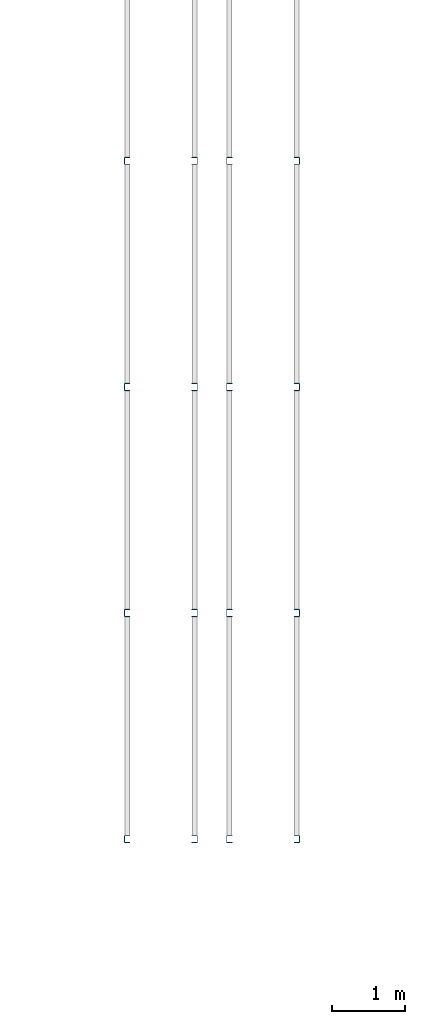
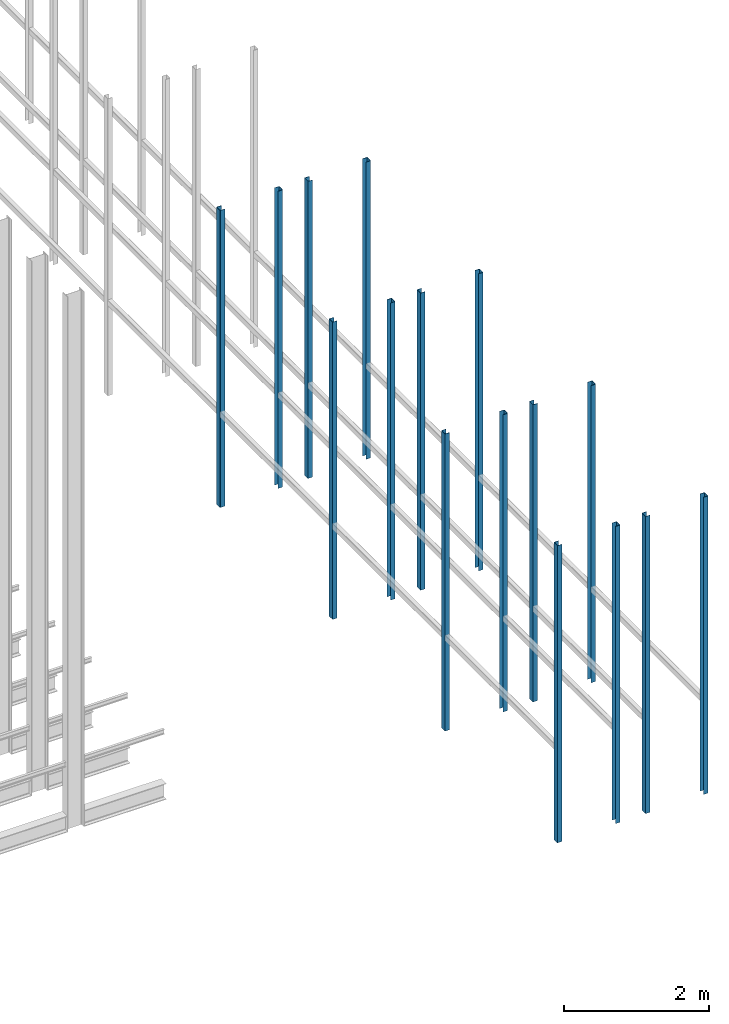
# One storey, part 48 of 302: 16 columns.
"""IFC2X3 building model written with IfcOpenShell, lengths in metres."""

import ifcopenshell
import ifcopenshell.guid

model = None  # the IFC model being written
_history = None  # IfcOwnerHistory: only IFC2X3 demands one
_inside = {}  # id of a spatial element -> (the spatial element, [elements in it])
_under = {}  # id of a project, library or spatial element -> (it, [spatial elements below it])
_declared = {}  # id of a project -> (the project, [libraries it declares])
_typed = {}  # id of a type object -> (the type object, [elements of that type])
_made_of = {}  # id of a material, layer set ... -> (it, [elements and type objects made of it])


def new_model(schema):
    """Start an empty IFC model of exactly this schema.

    Asked for "IFC4X3", IfcOpenShell would pick the latest addendum, in which some entities
    have other attributes; the version numbers below select the first issue.
    IFC2X3 requires an IfcOwnerHistory on every rooted entity: one is made here for all.
    """
    global model, _history
    if schema == "IFC4X3":
        model = ifcopenshell.file(schema_version=(4, 3, 0, 0))
    else:
        model = ifcopenshell.file(schema=schema)
    _inside.clear()
    _under.clear()
    _declared.clear()
    _typed.clear()
    _made_of.clear()
    _history = None
    if model.schema == "IFC2X3":
        org = make("IfcOrganization", Name="unknown")
        user = make(
            "IfcPersonAndOrganization",
            ThePerson=make("IfcPerson", FamilyName="unknown"),
            TheOrganization=org,
        )
        app = make(
            "IfcApplication",
            ApplicationDeveloper=org,
            Version="unknown",
            ApplicationFullName="unknown",
            ApplicationIdentifier="unknown",
        )
        _history = make(
            "IfcOwnerHistory",
            OwningUser=user,
            OwningApplication=app,
            ChangeAction="ADDED",
            CreationDate=0,
        )
    return model


def make(cls, **values):
    """One entity of the class cls with the attributes given. An attribute that is None is left unset."""
    return model.create_entity(
        cls, **{name: value for name, value in values.items() if value is not None}
    )


def entity(cls, *values):
    """Any entity or typed value of the class cls, its attributes in the order of the schema. None: left unset."""
    e = model.create_entity(cls)
    for i, value in enumerate(values):
        if value is not None:
            e[i] = value
    return e


def rooted(cls, **values):
    """An entity with a GlobalId (a new one), such as an element, a storey or a relation."""
    return make(cls, GlobalId=ifcopenshell.guid.new(), OwnerHistory=_history, **values)


def si_unit(unit_type, name, prefix=None):
    """IfcSIUnit, for example si_unit("LENGTHUNIT", "METRE", prefix="MILLI")."""
    return make("IfcSIUnit", UnitType=unit_type, Prefix=prefix, Name=name)


def converted_unit(unit_type, name, factor, base, dimensions=None, offset=None):
    """IfcConversionBasedUnit, such as the inch: factor (a typed value) times the base unit."""
    return make(
        "IfcConversionBasedUnit"
        if offset is None
        else "IfcConversionBasedUnitWithOffset",
        ConversionOffset=offset,
        Dimensions=None
        if dimensions is None
        else entity("IfcDimensionalExponents", *dimensions),
        UnitType=unit_type,
        Name=name,
        ConversionFactor=make(
            "IfcMeasureWithUnit", ValueComponent=factor, UnitComponent=base
        ),
    )


def derived_unit(unit_type, elements):
    """IfcDerivedUnit: a product of units, each with its exponent."""
    return make(
        "IfcDerivedUnit",
        Elements=[
            make("IfcDerivedUnitElement", Unit=unit, Exponent=power)
            for unit, power in elements
        ],
        UnitType=unit_type,
    )


def assignment(units):
    """IfcUnitAssignment: the units of a project."""
    return None if units is None else make("IfcUnitAssignment", Units=units)


def point(xyz):
    """IfcCartesianPoint."""
    return None if xyz is None else make("IfcCartesianPoint", Coordinates=xyz)


def direction(xyz):
    """IfcDirection."""
    return None if xyz is None else make("IfcDirection", DirectionRatios=xyz)


def frame(location, z_axis=None, x_axis=None):
    """IfcAxis2Placement3D, a coordinate frame: its origin and axes. An axis left out is left unset."""
    return make(
        "IfcAxis2Placement3D",
        Location=point(location),
        Axis=direction(z_axis),
        RefDirection=direction(x_axis),
    )


def frame_2d(location, x_axis=None):
    """IfcAxis2Placement2D, a coordinate frame in the plane: its origin and x axis."""
    return make(
        "IfcAxis2Placement2D", Location=point(location), RefDirection=direction(x_axis)
    )


def origin():
    """The frame at (0, 0, 0) with its axes left unset."""
    return frame((0.0, 0.0, 0.0))


def place(relative_to, where):
    """IfcLocalPlacement: puts the frame where relative to a parent placement (None: the world)."""
    return make(
        "IfcLocalPlacement", PlacementRelTo=relative_to, RelativePlacement=where
    )


def context(
    kind, dimensions, precision=None, world=None, true_north=None, identifier=None
):
    """IfcGeometricRepresentationContext, for example the 3D "Model" context."""
    return make(
        "IfcGeometricRepresentationContext",
        ContextIdentifier=identifier,
        ContextType=kind,
        CoordinateSpaceDimension=dimensions,
        Precision=precision,
        WorldCoordinateSystem=world,
        TrueNorth=true_north,
    )


def subcontext(parent, identifier, kind, view, scale=None):
    """IfcGeometricRepresentationSubContext, for example "Body" below "Model"."""
    return make(
        "IfcGeometricRepresentationSubContext",
        ContextIdentifier=identifier,
        ContextType=kind,
        ParentContext=parent,
        TargetScale=scale,
        TargetView=view,
    )


def project(units=None, contexts=None):
    """IfcProject with its units and contexts."""
    return rooted(
        "IfcProject",
        Name="project",
        RepresentationContexts=contexts,
        UnitsInContext=assignment(units),
    )


def spatial(cls, under=None, at=None, **own):
    """A site, building, storey or space (cls), placed at a placement, below another one or the project."""
    s = rooted(cls, ObjectPlacement=at, **own)
    if under is not None:
        _under.setdefault(under.id(), (under, []))[1].append(s)
    return s


def polyline(points):
    """IfcPolyline through the points."""
    return make("IfcPolyline", Points=[point(p) for p in points])


def circle_curve(where, radius):
    """IfcCircle in the frame where."""
    return make("IfcCircle", Position=where, Radius=radius)


def parameter(value):
    """IfcParameterValue: where a trimmed curve begins or ends, as a parameter of its basis curve."""
    return model.create_entity("IfcParameterValue", value)


def trimmed(basis, trim1, trim2, sense, master):
    """IfcTrimmedCurve: the piece of a basis curve between two trims."""
    return make(
        "IfcTrimmedCurve",
        BasisCurve=basis,
        Trim1=trim1,
        Trim2=trim2,
        SenseAgreement=sense,
        MasterRepresentation=master,
    )


def segment(curve, same_sense, transition):
    """IfcCompositeCurveSegment."""
    return make(
        "IfcCompositeCurveSegment",
        Transition=transition,
        SameSense=same_sense,
        ParentCurve=curve,
    )


def composite_curve(segments, self_intersect=None):
    """IfcCompositeCurve: segments joined end to end."""
    return make("IfcCompositeCurve", Segments=segments, SelfIntersect=self_intersect)


def outline(outer, holes=None, kind="AREA"):
    """IfcArbitraryClosedProfileDef: a profile drawn as a closed curve; with holes, ...WithVoids."""
    if holes is None:
        return make("IfcArbitraryClosedProfileDef", ProfileType=kind, OuterCurve=outer)
    return make(
        "IfcArbitraryProfileDefWithVoids",
        ProfileType=kind,
        OuterCurve=outer,
        InnerCurves=holes,
    )


def extrude(swept, where, along, depth):
    """IfcExtrudedAreaSolid: the profile swept, set in the frame where, extruded along a direction by depth."""
    return make(
        "IfcExtrudedAreaSolid",
        SweptArea=swept,
        Position=where,
        ExtrudedDirection=direction(along),
        Depth=depth,
    )


def shape(context_of_items, identifier, shape_type, items):
    """IfcShapeRepresentation: the items that make up one representation, for example the "Body"."""
    return make(
        "IfcShapeRepresentation",
        ContextOfItems=context_of_items,
        RepresentationIdentifier=identifier,
        RepresentationType=shape_type,
        Items=items,
    )


def source(mapping_origin, context_of_items, identifier, shape_type, items):
    """IfcRepresentationMap: a shape defined once, which mapped items show again and again."""
    return make(
        "IfcRepresentationMap",
        MappingOrigin=mapping_origin,
        MappedRepresentation=shape(context_of_items, identifier, shape_type, items),
    )


def transform(
    local_origin,
    x_axis=None,
    y_axis=None,
    z_axis=None,
    scale=None,
    scale2=None,
    scale3=None,
    uniform=True,
):
    """IfcCartesianTransformationOperator3D, or its non-uniform kind. x_axis, y_axis, z_axis: its Axis1, 2, 3."""
    if uniform:
        return make(
            "IfcCartesianTransformationOperator3D",
            Axis1=direction(x_axis),
            Axis2=direction(y_axis),
            LocalOrigin=point(local_origin),
            Scale=scale,
            Axis3=direction(z_axis),
        )
    return make(
        "IfcCartesianTransformationOperator3DnonUniform",
        Axis1=direction(x_axis),
        Axis2=direction(y_axis),
        LocalOrigin=point(local_origin),
        Scale=scale,
        Axis3=direction(z_axis),
        Scale2=scale2,
        Scale3=scale3,
    )


def mapped(mapping_source, mapping_target):
    """IfcMappedItem: shows the shape of a source again, moved by a transform."""
    return make(
        "IfcMappedItem", MappingSource=mapping_source, MappingTarget=mapping_target
    )


def material(Name=None, Category=None):
    """IfcMaterial."""
    return make("IfcMaterial", Name=Name, Category=Category)


def made_of(thing, what):
    """Note that an element or type object is made of a material, layer set ...; save() writes the relation."""
    if what is not None:
        _made_of.setdefault(what.id(), (what, []))[1].append(thing)
    return thing


def type_object(cls, material=None, **own):
    """A type object (cls), such as IfcWallType, which elements share."""
    return made_of(rooted(cls, **own), material)


def type_shapes(of_type, sources):
    """Give a type object the sources (RepresentationMaps) that its elements show as mapped items."""
    of_type.RepresentationMaps = sources


def element(
    cls,
    number,
    at=None,
    inside=None,
    cuts=None,
    type_object=None,
    material=None,
    context=None,
    identifier="Body",
    shape_type=None,
    held_by="IfcProductDefinitionShape",
    body=None,
    shapes=None,
    **own,
):
    """One element of the class cls, such as IfcWall. Its Tag is "e" and its number.

    at: its placement. inside: the storey or other place that contains it. cuts: it is an
    opening in that element (IfcRelVoidsElement). A single representation is given by context,
    identifier, shape_type and body (its items); several are given by shapes. held_by: the class
    of the entity that holds the representations. save() writes the other relations.
    """
    e = rooted(cls, Tag="e%d" % number, ObjectPlacement=at, **own)
    if body is not None:
        shapes = [shape(context, identifier, shape_type, body)]
    if shapes is not None:
        e.Representation = make(held_by, Representations=shapes)
    if inside is not None:
        _inside.setdefault(inside.id(), (inside, []))[1].append(e)
    if cuts is not None:
        rooted(
            "IfcRelVoidsElement", RelatingBuildingElement=cuts, RelatedOpeningElement=e
        )
    if type_object is not None:
        _typed.setdefault(type_object.id(), (type_object, []))[1].append(e)
    return made_of(e, material)


def aggregate(whole, parts):
    """IfcRelAggregates: a whole, such as a stair, and the parts it consists of."""
    return rooted("IfcRelAggregates", RelatingObject=whole, RelatedObjects=parts)


def save(model, path):
    """Write the relations noted so far, then the file.

    IfcRelAggregates (storeys below a building ...), IfcRelContainedInSpatialStructure (elements
    in a storey), IfcRelDefinesByType, IfcRelAssociatesMaterial and IfcRelDeclares: one each for
    every whole, place, type object, material and project.
    """
    for whole, parts in _under.values():
        aggregate(whole, parts)
    for where, things in _inside.values():
        rooted(
            "IfcRelContainedInSpatialStructure",
            RelatedElements=things,
            RelatingStructure=where,
        )
    for kind, things in _typed.values():
        rooted("IfcRelDefinesByType", RelatedObjects=things, RelatingType=kind)
    for what, things in _made_of.values():
        rooted("IfcRelAssociatesMaterial", RelatedObjects=things, RelatingMaterial=what)
    for by, libraries in _declared.values():
        rooted("IfcRelDeclares", RelatingContext=by, RelatedDefinitions=libraries)
    model.write(path)


model = new_model("IFC2X3")

# Units and contexts
model_context = context("Model", 3, precision=1e-05, world=origin(), true_north=direction((6.12303176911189e-17, 1.0)))
body_context = subcontext(model_context, "Body", "Model", "MODEL_VIEW")
ifc_project = project(units=[si_unit("LENGTHUNIT", "METRE"), si_unit("AREAUNIT", "SQUARE_METRE"), si_unit("VOLUMEUNIT", "CUBIC_METRE"), converted_unit("PLANEANGLEUNIT", "DEGREE", entity("IfcRatioMeasure", 0.0174532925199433), si_unit("PLANEANGLEUNIT", "RADIAN"), dimensions=[0, 0, 0, 0, 0, 0, 0]), si_unit("MASSUNIT", "GRAM", prefix="KILO"), derived_unit("MASSDENSITYUNIT", [(si_unit("MASSUNIT", "GRAM", prefix="KILO"), 1), (si_unit("LENGTHUNIT", "METRE"), -3)]), derived_unit("MOMENTOFINERTIAUNIT", [(si_unit("LENGTHUNIT", "METRE"), 4)]), si_unit("TIMEUNIT", "SECOND"), si_unit("FREQUENCYUNIT", "HERTZ"), si_unit("THERMODYNAMICTEMPERATUREUNIT", "DEGREE_CELSIUS"), derived_unit("THERMALTRANSMITTANCEUNIT", [(si_unit("MASSUNIT", "GRAM", prefix="KILO"), 1), (si_unit("THERMODYNAMICTEMPERATUREUNIT", "KELVIN"), -1), (si_unit("TIMEUNIT", "SECOND"), -3)]), derived_unit("VOLUMETRICFLOWRATEUNIT", [(si_unit("LENGTHUNIT", "METRE"), 3), (si_unit("TIMEUNIT", "SECOND"), -1)]), si_unit("ELECTRICCURRENTUNIT", "AMPERE"), si_unit("ELECTRICVOLTAGEUNIT", "VOLT"), si_unit("POWERUNIT", "WATT"), si_unit("FORCEUNIT", "NEWTON", prefix="KILO"), si_unit("ILLUMINANCEUNIT", "LUX"), si_unit("LUMINOUSFLUXUNIT", "LUMEN"), si_unit("LUMINOUSINTENSITYUNIT", "CANDELA"), derived_unit("USERDEFINED", [(si_unit("MASSUNIT", "GRAM", prefix="KILO"), -1), (si_unit("LENGTHUNIT", "METRE"), -2), (si_unit("TIMEUNIT", "SECOND"), 3), (si_unit("LUMINOUSFLUXUNIT", "LUMEN"), 1)]), derived_unit("LINEARVELOCITYUNIT", [(si_unit("LENGTHUNIT", "METRE"), 1), (si_unit("TIMEUNIT", "SECOND"), -1)]), si_unit("PRESSUREUNIT", "PASCAL"), derived_unit("USERDEFINED", [(si_unit("LENGTHUNIT", "METRE"), -2), (si_unit("MASSUNIT", "GRAM", prefix="KILO"), 1), (si_unit("TIMEUNIT", "SECOND"), -2)]), derived_unit("LINEARFORCEUNIT", [(si_unit("MASSUNIT", "GRAM", prefix="KILO"), 1), (si_unit("LENGTHUNIT", "METRE"), 1), (si_unit("TIMEUNIT", "SECOND"), -2), (si_unit("LENGTHUNIT", "METRE"), -1)]), derived_unit("PLANARFORCEUNIT", [(si_unit("MASSUNIT", "GRAM", prefix="KILO"), 1), (si_unit("LENGTHUNIT", "METRE"), 1), (si_unit("TIMEUNIT", "SECOND"), -2), (si_unit("LENGTHUNIT", "METRE"), -2)])], contexts=[model_context])

# Site, building, storey
site_placement = place(None, origin())
site = spatial("IfcSite", under=ifc_project, at=site_placement, Name="Default", CompositionType="ELEMENT")
building_placement = place(site_placement, origin())
building = spatial("IfcBuilding", under=site, at=building_placement, CompositionType="ELEMENT")
storey_placement = place(building_placement, frame((0.0, 0.0, -1.3)))
storey = spatial("IfcBuildingStorey", under=building, at=storey_placement, Name="00_EG", CompositionType="ELEMENT", Elevation=-1.3)

# Columns
ifc_material = material(Name="Metall - Baustahl S235")
column_type_1 = type_object("IfcColumnType", Name="Leichter Stahl Schlossschrauben Stütze:C 100", PredefinedType="COLUMN", material=ifc_material)
shared_shape_1 = source(origin(), body_context, "Body", "SweptSolid", [
    extrude(outline(composite_curve([segment(polyline([(-0.0469749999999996, -0.0499999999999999), (0.0214500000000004, -0.0499999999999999)]), True, "CONTINUOUS"), segment(trimmed(circle_curve(frame_2d((0.0214500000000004, -0.0434249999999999), x_axis=(0.0, -1.0)), 0.00657500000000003), [parameter(0.0)], [parameter(89.9999999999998)], True, "PARAMETER"), True, "CONTINUOUS"), segment(polyline([(0.0280250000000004, -0.0434249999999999), (0.0280250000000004, 0.0434250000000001)]), True, "CONTINUOUS"), segment(trimmed(circle_curve(frame_2d((0.0214500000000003, 0.0434250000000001), x_axis=(1.0, 0.0)), 0.0065750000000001), [parameter(0.0)], [parameter(89.9999999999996)], True, "PARAMETER"), True, "CONTINUOUS"), segment(polyline([(0.0214500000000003, 0.0500000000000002), (-0.0469750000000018, 0.0500000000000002)]), True, "CONTINUOUS"), segment(polyline([(-0.0469750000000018, 0.0500000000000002), (-0.0469750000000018, 0.0450000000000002)]), True, "CONTINUOUS"), segment(polyline([(-0.0469750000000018, 0.0450000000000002), (0.0214500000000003, 0.0450000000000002)]), True, "CONTINUOUS"), segment(trimmed(circle_curve(frame_2d((0.0214500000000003, 0.0434249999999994), x_axis=(0.0, 1.0)), 0.00157500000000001), [parameter(269.999999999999)], [parameter(0.0)], True, "PARAMETER"), False, "CONTINUOUS"), segment(polyline([(0.0230250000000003, 0.0434249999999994), (0.0230250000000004, -0.0434249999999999)]), True, "CONTINUOUS"), segment(trimmed(circle_curve(frame_2d((0.0214500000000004, -0.0434249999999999), x_axis=(1.0, 0.0)), 0.00157500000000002), [parameter(270.0)], [parameter(0.0)], True, "PARAMETER"), False, "CONTINUOUS"), segment(polyline([(0.0214500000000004, -0.0449999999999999), (-0.0469749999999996, -0.0449999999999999)]), True, "CONTINUOUS"), segment(polyline([(-0.0469749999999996, -0.0449999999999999), (-0.0469749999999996, -0.0499999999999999)]), True, "CONTINUOUS")], self_intersect=False)), frame((0.0499999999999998, 0.0280250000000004, -0.0300000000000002), z_axis=(0.0, 0.0, 1.0), x_axis=(0.0, -1.0, 0.0)), (0.0, 0.0, 1.0), 5.0),
])
type_shapes(column_type_1, [shared_shape_1])
for number, where, z_axis, x_axis in (
    (1, (-159.193311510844, 26.6480889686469, 1.3), (0.0, 0.0, 1.0), (0.0, -1.0, 0.0)),
    (2, (-159.193311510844, 23.5480889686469, 1.3), (0.0, 0.0, 1.0), (0.0, -1.0, 0.0)),
    (3, (-159.193311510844, 20.4480889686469, 1.3), (0.0, 0.0, 1.0), (0.0, -1.0, 0.0)),
    (4, (-159.193311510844, 29.7480889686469, 1.3), (0.0, 0.0, 1.0), (0.0, -1.0, 0.0)),
    (5, (-157.793311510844, 26.6480889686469, 1.3), (0.0, 0.0, 1.0), (0.0, -1.0, 0.0)),
    (6, (-157.793311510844, 23.5480889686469, 1.3), (0.0, 0.0, 1.0), (0.0, -1.0, 0.0)),
    (7, (-157.793311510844, 20.4480889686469, 1.3), (0.0, 0.0, 1.0), (0.0, -1.0, 0.0)),
    (8, (-157.793311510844, 29.7480889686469, 1.3), (0.0, 0.0, 1.0), (0.0, -1.0, 0.0)),
):
    element("IfcColumn", number, at=place(storey_placement, frame(where, z_axis=z_axis, x_axis=x_axis)), inside=storey, type_object=column_type_1, material=ifc_material, Name="Leichter Stahl Schlossschrauben Stütze:C 100", ObjectType="Leichter Stahl Schlossschrauben Stütze:C 100", context=body_context, shape_type="MappedRepresentation", body=[
        mapped(shared_shape_1, transform((0.0, 0.0, 0.0), scale=1.0)),
    ])
column_type_2 = type_object("IfcColumnType", Name="Leichter Stahl Schlossschrauben Stütze:C 100", PredefinedType="COLUMN", material=ifc_material)
shared_shape_2 = source(origin(), body_context, "Body", "SweptSolid", [
    extrude(outline(composite_curve([segment(polyline([(-0.0214500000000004, -0.0499999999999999), (0.0469749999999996, -0.0499999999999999)]), True, "CONTINUOUS"), segment(polyline([(0.0469749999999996, -0.0499999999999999), (0.0469749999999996, -0.0449999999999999)]), True, "CONTINUOUS"), segment(polyline([(0.0469749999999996, -0.0449999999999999), (-0.0214500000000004, -0.045)]), True, "CONTINUOUS"), segment(trimmed(circle_curve(frame_2d((-0.0214500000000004, -0.043425), x_axis=(0.0, -1.0)), 0.00157500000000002), [parameter(270.0)], [parameter(0.0)], True, "PARAMETER"), False, "CONTINUOUS"), segment(polyline([(-0.0230250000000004, -0.0434249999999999), (-0.0230250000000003, 0.0434249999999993)]), True, "CONTINUOUS"), segment(trimmed(circle_curve(frame_2d((-0.0214500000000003, 0.0434249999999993), x_axis=(-1.0, 0.0)), 0.00157500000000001), [parameter(269.999999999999)], [parameter(0.0)], True, "PARAMETER"), False, "CONTINUOUS"), segment(polyline([(-0.0214500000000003, 0.0450000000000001), (0.0469750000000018, 0.0450000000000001)]), True, "CONTINUOUS"), segment(polyline([(0.0469750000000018, 0.0450000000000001), (0.0469750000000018, 0.0500000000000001)]), True, "CONTINUOUS"), segment(polyline([(0.0469750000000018, 0.0500000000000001), (-0.0214500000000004, 0.0500000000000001)]), True, "CONTINUOUS"), segment(trimmed(circle_curve(frame_2d((-0.0214500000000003, 0.043425), x_axis=(0.0, 1.0)), 0.0065750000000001), [parameter(0.0)], [parameter(89.9999999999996)], True, "PARAMETER"), True, "CONTINUOUS"), segment(polyline([(-0.0280250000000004, 0.043425), (-0.0280250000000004, -0.043425)]), True, "CONTINUOUS"), segment(trimmed(circle_curve(frame_2d((-0.0214500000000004, -0.0434249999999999), x_axis=(-1.0, 0.0)), 0.00657500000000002), [parameter(0.0)], [parameter(89.9999999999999)], True, "PARAMETER"), True, "CONTINUOUS")], self_intersect=False)), frame((0.0499999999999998, -0.0280250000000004, -0.0300000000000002), z_axis=(0.0, 0.0, 1.0), x_axis=(0.0, -1.0, 0.0)), (0.0, 0.0, 1.0), 5.0),
])
type_shapes(column_type_2, [shared_shape_2])
for number, where, z_axis, x_axis in (
    (9, (-158.193311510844, 26.6480889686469, 1.3), (0.0, 0.0, 1.0), (0.0, -1.0, 0.0)),
    (10, (-158.193311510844, 23.5480889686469, 1.3), (0.0, 0.0, 1.0), (0.0, -1.0, 0.0)),
    (11, (-158.193311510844, 20.4480889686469, 1.3), (0.0, 0.0, 1.0), (0.0, -1.0, 0.0)),
    (12, (-158.193311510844, 29.7480889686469, 1.3), (0.0, 0.0, 1.0), (0.0, -1.0, 0.0)),
    (13, (-156.793311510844, 26.6480889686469, 1.3), (0.0, 0.0, 1.0), (0.0, -1.0, 0.0)),
    (14, (-156.793311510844, 23.5480889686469, 1.3), (0.0, 0.0, 1.0), (0.0, -1.0, 0.0)),
    (15, (-156.793311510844, 20.4480889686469, 1.3), (0.0, 0.0, 1.0), (0.0, -1.0, 0.0)),
    (16, (-156.793311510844, 29.7480889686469, 1.3), (0.0, 0.0, 1.0), (0.0, -1.0, 0.0)),
):
    element("IfcColumn", number, at=place(storey_placement, frame(where, z_axis=z_axis, x_axis=x_axis)), inside=storey, type_object=column_type_2, material=ifc_material, Name="Leichter Stahl Schlossschrauben Stütze:C 100", ObjectType="Leichter Stahl Schlossschrauben Stütze:C 100", context=body_context, shape_type="MappedRepresentation", body=[
        mapped(shared_shape_2, transform((0.0, 0.0, 0.0), scale=1.0)),
    ])

save(model, "model.ifc")
